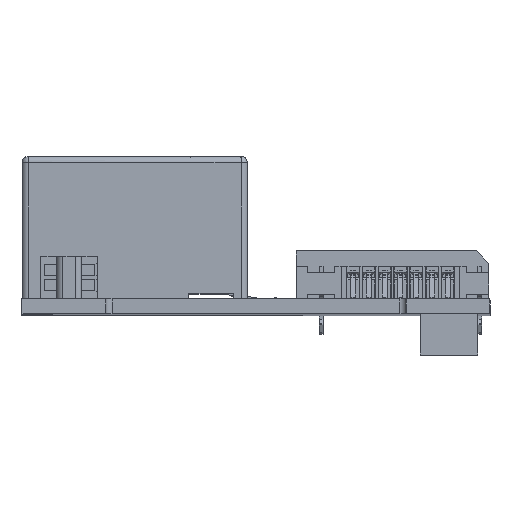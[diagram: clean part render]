
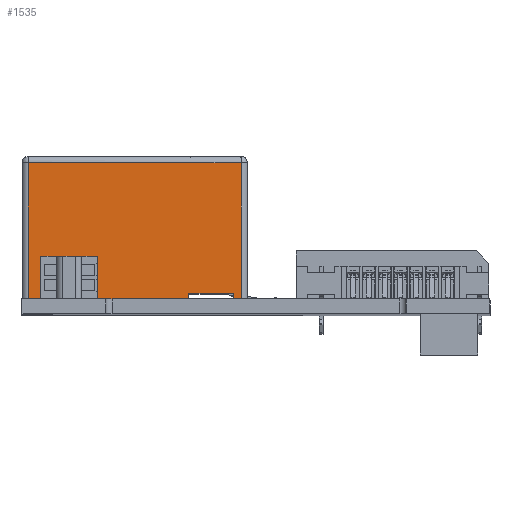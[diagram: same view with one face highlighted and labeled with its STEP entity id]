
A CAD part, top view. The second image highlights one B-rep face of the part: STEP entity #1535.
In plain terms, the highlighted planar face has unit normal (0, 0, 1).
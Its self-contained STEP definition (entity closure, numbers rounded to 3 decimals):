
#1535=ADVANCED_FACE('',(#4378),#26022,.T.);
#4378=FACE_OUTER_BOUND('',#7506,.F.);
#7506=EDGE_LOOP('',(#16539,#16540,#16541,#16542,#16543,#16544,#16545,#16546));
#16539=ORIENTED_EDGE('',*,*,#28291,.F.);
#16540=ORIENTED_EDGE('',*,*,#32487,.T.);
#16541=ORIENTED_EDGE('',*,*,#32488,.T.);
#16542=ORIENTED_EDGE('',*,*,#32489,.T.);
#16543=ORIENTED_EDGE('',*,*,#28290,.F.);
#16544=ORIENTED_EDGE('',*,*,#32486,.T.);
#16545=ORIENTED_EDGE('',*,*,#31592,.T.);
#16546=ORIENTED_EDGE('',*,*,#31590,.F.);
#26022=PLANE('',#57364);
#28290=EDGE_CURVE('',#55527,#55526,#36155,.T.);
#28291=EDGE_CURVE('',#55525,#55534,#36156,.T.);
#31590=EDGE_CURVE('',#55534,#53376,#39055,.T.);
#31592=EDGE_CURVE('',#53366,#53376,#39057,.T.);
#32486=EDGE_CURVE('',#55527,#53366,#39802,.T.);
#32487=EDGE_CURVE('',#55525,#52771,#39803,.T.);
#32488=EDGE_CURVE('',#52771,#52770,#39804,.T.);
#32489=EDGE_CURVE('',#52770,#55526,#39805,.T.);
#36155=LINE('',#78219,#43406);
#36156=LINE('',#78220,#43407);
#39055=LINE('',#81591,#46306);
#39057=LINE('',#81593,#46308);
#39802=LINE('',#82487,#47053);
#39803=LINE('',#82488,#47054);
#39804=LINE('',#82489,#47055);
#39805=LINE('',#82490,#47056);
#43406=VECTOR('',#59097,0.605);
#43407=VECTOR('',#59098,12.9);
#46306=VECTOR('',#62779,0.5);
#46308=VECTOR('',#62781,3.595);
#47053=VECTOR('',#63824,0.5);
#47054=VECTOR('',#63825,11.);
#47055=VECTOR('',#63826,17.1);
#47056=VECTOR('',#63827,11.);
#52770=VERTEX_POINT('',#75346);
#52771=VERTEX_POINT('',#75347);
#53366=VERTEX_POINT('',#75942);
#53376=VERTEX_POINT('',#75952);
#55525=VERTEX_POINT('',#78101);
#55526=VERTEX_POINT('',#78102);
#55527=VERTEX_POINT('',#78103);
#55534=VERTEX_POINT('',#78110);
#57364=AXIS2_PLACEMENT_3D('',#87333,#69838,#69839);
#59097=DIRECTION('',(1.,0.,0.));
#59098=DIRECTION('',(1.,0.,0.));
#62779=DIRECTION('',(0.,1.,0.));
#62781=DIRECTION('',(-1.,0.,0.));
#63824=DIRECTION('',(0.,1.,0.));
#63825=DIRECTION('',(0.,1.,0.));
#63826=DIRECTION('',(1.,0.,0.));
#63827=DIRECTION('',(0.,-1.,0.));
#69838=DIRECTION('',(0.,0.,1.));
#69839=DIRECTION('',(0.,1.,0.));
#75346=CARTESIAN_POINT('',(3.554,13.704,-19.172));
#75347=CARTESIAN_POINT('',(-13.546,13.704,-19.172));
#75942=CARTESIAN_POINT('',(2.949,3.204,-19.172));
#75952=CARTESIAN_POINT('',(-0.646,3.204,-19.172));
#78101=CARTESIAN_POINT('',(-13.546,2.704,-19.172));
#78102=CARTESIAN_POINT('',(3.554,2.704,-19.172));
#78103=CARTESIAN_POINT('',(2.949,2.704,-19.172));
#78110=CARTESIAN_POINT('',(-0.646,2.704,-19.172));
#78219=CARTESIAN_POINT('',(2.949,2.704,-19.172));
#78220=CARTESIAN_POINT('',(-13.546,2.704,-19.172));
#81591=CARTESIAN_POINT('',(-0.646,2.704,-19.172));
#81593=CARTESIAN_POINT('',(2.949,3.204,-19.172));
#82487=CARTESIAN_POINT('',(2.949,2.704,-19.172));
#82488=CARTESIAN_POINT('',(-13.546,2.704,-19.172));
#82489=CARTESIAN_POINT('',(-13.546,13.704,-19.172));
#82490=CARTESIAN_POINT('',(3.554,13.704,-19.172));
#87333=CARTESIAN_POINT('',(4.409,1.849,-19.172));
